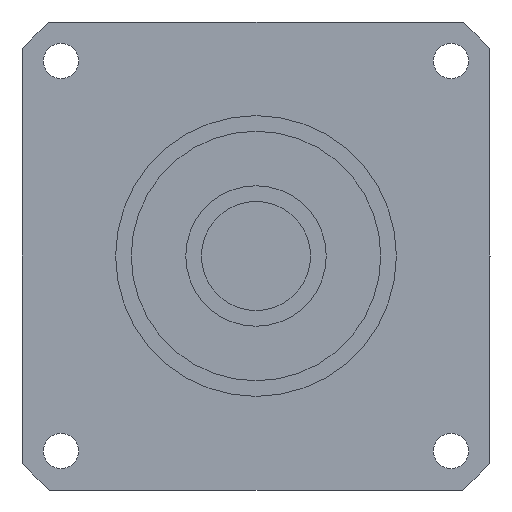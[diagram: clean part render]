
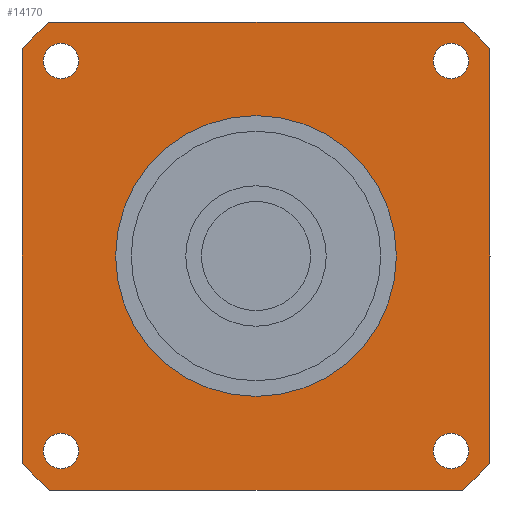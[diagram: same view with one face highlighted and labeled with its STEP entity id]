
A CAD part, left-side view. The second image highlights one B-rep face of the part: STEP entity #14170.
In plain terms, the highlighted planar face has unit normal (-1, 0, 0) as drawn and (0, 0, -1) by its records, which use the part's own axes.
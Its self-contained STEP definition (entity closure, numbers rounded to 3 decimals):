
#8940=CARTESIAN_POINT('',(22.75,-25.,-35.1));
#8950=VERTEX_POINT('',#8940);
#8980=CARTESIAN_POINT('',(25.,-25.,-35.1));
#8990=DIRECTION('',(0.,0.,-1.));
#9000=DIRECTION('',(1.,0.,0.));
#9010=AXIS2_PLACEMENT_3D('',#8980,#8990,#9000);
#9020=CIRCLE('',#9010,2.25);
#9030=CARTESIAN_POINT('',(27.25,-25.,-35.1));
#9040=VERTEX_POINT('',#9030);
#9050=EDGE_CURVE('',#9040,#8950,#9020,.T.);
#9290=CARTESIAN_POINT('',(-30.,-26.458,-35.1));
#9300=VERTEX_POINT('',#9290);
#9350=CARTESIAN_POINT('',(-30.,-30.,-35.1));
#9360=DIRECTION('',(0.,1.,0.));
#9370=VECTOR('',#9360,1000.);
#9380=LINE('',#9350,#9370);
#9390=CARTESIAN_POINT('',(-30.,26.458,-35.1));
#9400=VERTEX_POINT('',#9390);
#9410=EDGE_CURVE('',#9300,#9400,#9380,.T.);
#12690=CARTESIAN_POINT('',(-25.,-22.75,-35.1));
#12700=VERTEX_POINT('',#12690);
#12730=CARTESIAN_POINT('',(-25.,-25.,-35.1));
#12740=DIRECTION('',(0.,0.,-1.));
#12750=DIRECTION('',(0.,-1.,0.));
#12760=AXIS2_PLACEMENT_3D('',#12730,#12740,#12750);
#12770=CIRCLE('',#12760,2.25);
#12780=CARTESIAN_POINT('',(-25.,-27.25,-35.1));
#12790=VERTEX_POINT('',#12780);
#12800=EDGE_CURVE('',#12790,#12700,#12770,.T.);
#12920=CARTESIAN_POINT('',(30.,30.,-35.1));
#12930=DIRECTION('',(0.,0.,-1.));
#12940=DIRECTION('',(1.,0.,0.));
#12950=AXIS2_PLACEMENT_3D('',#12920,#12930,#12940);
#12960=PLANE('',#12950);
#12970=ORIENTED_EDGE('',*,*,#12800,.F.);
#12980=EDGE_CURVE('',#12700,#12790,#12770,.T.);
#12990=ORIENTED_EDGE('',*,*,#12980,.F.);
#13000=EDGE_LOOP('',(#12990,#12970));
#13010=FACE_BOUND('',#13000,.T.);
#13020=CARTESIAN_POINT('',(-25.,25.,-35.1));
#13030=DIRECTION('',(0.,0.,-1.));
#13040=DIRECTION('',(-1.,0.,0.));
#13050=AXIS2_PLACEMENT_3D('',#13020,#13030,#13040);
#13060=CIRCLE('',#13050,2.25);
#13070=CARTESIAN_POINT('',(-27.25,25.,-35.1));
#13080=VERTEX_POINT('',#13070);
#13090=CARTESIAN_POINT('',(-22.75,25.,-35.1));
#13100=VERTEX_POINT('',#13090);
#13110=EDGE_CURVE('',#13080,#13100,#13060,.T.);
#13120=ORIENTED_EDGE('',*,*,#13110,.F.);
#13130=EDGE_CURVE('',#13100,#13080,#13060,.T.);
#13140=ORIENTED_EDGE('',*,*,#13130,.F.);
#13150=EDGE_LOOP('',(#13140,#13120));
#13160=FACE_BOUND('',#13150,.T.);
#13170=CARTESIAN_POINT('',(25.,25.,-35.1));
#13180=DIRECTION('',(0.,0.,-1.));
#13190=DIRECTION('',(0.,1.,0.));
#13200=AXIS2_PLACEMENT_3D('',#13170,#13180,#13190);
#13210=CIRCLE('',#13200,2.25);
#13220=CARTESIAN_POINT('',(25.,27.25,-35.1));
#13230=VERTEX_POINT('',#13220);
#13240=CARTESIAN_POINT('',(25.,22.75,-35.1));
#13250=VERTEX_POINT('',#13240);
#13260=EDGE_CURVE('',#13230,#13250,#13210,.T.);
#13270=ORIENTED_EDGE('',*,*,#13260,.F.);
#13280=EDGE_CURVE('',#13250,#13230,#13210,.T.);
#13290=ORIENTED_EDGE('',*,*,#13280,.F.);
#13300=EDGE_LOOP('',(#13290,#13270));
#13310=FACE_BOUND('',#13300,.T.);
#13320=CARTESIAN_POINT('',(0.,0.,
-35.1));
#13330=DIRECTION('',(0.,0.,1.));
#13340=DIRECTION('',(0.,1.,0.));
#13350=AXIS2_PLACEMENT_3D('',#13320,#13330,#13340);
#13360=CIRCLE('',#13350,18.);
#13370=CARTESIAN_POINT('',(-18.,0.,-35.1));
#13380=VERTEX_POINT('',#13370);
#13390=CARTESIAN_POINT('',(18.,0.,-35.1));
#13400=VERTEX_POINT('',#13390);
#13410=EDGE_CURVE('',#13380,#13400,#13360,.T.);
#13420=ORIENTED_EDGE('',*,*,#13410,.T.);
#13430=CARTESIAN_POINT('',(0.,18.,-35.1));
#13440=VERTEX_POINT('',#13430);
#13450=EDGE_CURVE('',#13440,#13380,#13360,.T.);
#13460=ORIENTED_EDGE('',*,*,#13450,.T.);
#13470=EDGE_CURVE('',#13400,#13440,#13360,.T.);
#13480=ORIENTED_EDGE('',*,*,#13470,.T.);
#13490=EDGE_LOOP('',(#13480,#13460,#13420));
#13500=FACE_BOUND('',#13490,.T.);
#13510=CARTESIAN_POINT('',(-30.,30.,-35.1));
#13520=DIRECTION('',(1.,0.,0.));
#13530=VECTOR('',#13520,1000.);
#13540=LINE('',#13510,#13530);
#13550=CARTESIAN_POINT('',(-26.458,30.,-35.1));
#13560=VERTEX_POINT('',#13550);
#13570=CARTESIAN_POINT('',(26.458,30.,-35.1));
#13580=VERTEX_POINT('',#13570);
#13590=EDGE_CURVE('',#13560,#13580,#13540,.T.);
#13600=ORIENTED_EDGE('',*,*,#13590,.T.);
#13610=CARTESIAN_POINT('',(0.,0.,-35.1));
#13620=DIRECTION('',(0.,0.,-1.));
#13630=DIRECTION('',(1.,0.,0.));
#13640=AXIS2_PLACEMENT_3D('',#13610,#13620,#13630);
#13650=CIRCLE('',#13640,40.);
#13660=EDGE_CURVE('',#9400,#13560,#13650,.T.);
#13670=ORIENTED_EDGE('',*,*,#13660,.T.);
#13680=ORIENTED_EDGE('',*,*,#9410,.T.);
#13690=CARTESIAN_POINT('',(0.,0.,-35.1));
#13700=DIRECTION('',(0.,0.,-1.));
#13710=DIRECTION('',(1.,0.,0.));
#13720=AXIS2_PLACEMENT_3D('',#13690,#13700,#13710);
#13730=CIRCLE('',#13720,40.);
#13740=CARTESIAN_POINT('',(-26.458,-30.,-35.1));
#13750=VERTEX_POINT('',#13740);
#13760=EDGE_CURVE('',#13750,#9300,#13730,.T.);
#13770=ORIENTED_EDGE('',*,*,#13760,.T.);
#13780=CARTESIAN_POINT('',(30.,-30.,-35.1));
#13790=DIRECTION('',(-1.,0.,0.));
#13800=VECTOR('',#13790,1000.);
#13810=LINE('',#13780,#13800);
#13820=CARTESIAN_POINT('',(26.458,-30.,-35.1));
#13830=VERTEX_POINT('',#13820);
#13840=EDGE_CURVE('',#13830,#13750,#13810,.T.);
#13850=ORIENTED_EDGE('',*,*,#13840,.T.);
#13860=CARTESIAN_POINT('',(0.,0.,-35.1));
#13870=DIRECTION('',(0.,0.,-1.));
#13880=DIRECTION('',(1.,0.,0.));
#13890=AXIS2_PLACEMENT_3D('',#13860,#13870,#13880);
#13900=CIRCLE('',#13890,40.);
#13910=CARTESIAN_POINT('',(30.,-26.458,-35.1));
#13920=VERTEX_POINT('',#13910);
#13930=EDGE_CURVE('',#13920,#13830,#13900,.T.);
#13940=ORIENTED_EDGE('',*,*,#13930,.T.);
#13950=CARTESIAN_POINT('',(30.,30.,-35.1));
#13960=DIRECTION('',(0.,-1.,0.));
#13970=VECTOR('',#13960,1000.);
#13980=LINE('',#13950,#13970);
#13990=CARTESIAN_POINT('',(30.,26.458,-35.1));
#14000=VERTEX_POINT('',#13990);
#14010=EDGE_CURVE('',#14000,#13920,#13980,.T.);
#14020=ORIENTED_EDGE('',*,*,#14010,.T.);
#14030=CARTESIAN_POINT('',(0.,0.,-35.1));
#14040=DIRECTION('',(0.,0.,-1.));
#14050=DIRECTION('',(1.,0.,0.));
#14060=AXIS2_PLACEMENT_3D('',#14030,#14040,#14050);
#14070=CIRCLE('',#14060,40.);
#14080=EDGE_CURVE('',#13580,#14000,#14070,.T.);
#14090=ORIENTED_EDGE('',*,*,#14080,.T.);
#14100=EDGE_LOOP('',(#14090,#14020,#13940,#13850,#13770,#13680,#13670,
#13600));
#14110=FACE_OUTER_BOUND('',#14100,.T.);
#14120=ORIENTED_EDGE('',*,*,#9050,.F.);
#14130=EDGE_CURVE('',#8950,#9040,#9020,.T.);
#14140=ORIENTED_EDGE('',*,*,#14130,.F.);
#14150=EDGE_LOOP('',(#14140,#14120));
#14160=FACE_BOUND('',#14150,.T.);
#14170=ADVANCED_FACE('',(#13010,#13160,#13310,#13500,#14110,#14160),
#12960,.T.);
